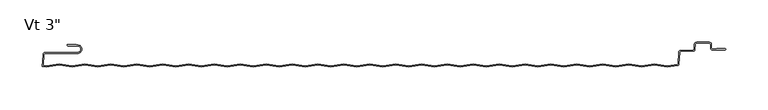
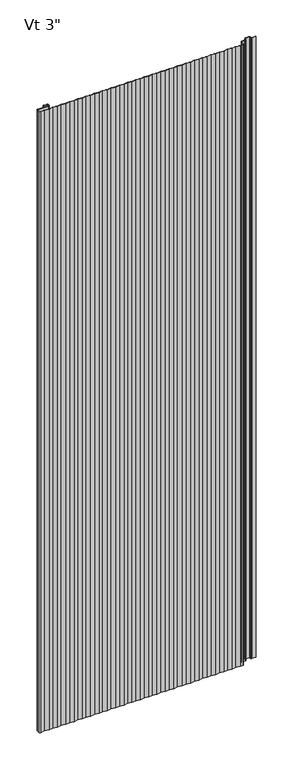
"""IFC4 building model written with IfcOpenShell, lengths in millimetres: plate geometry."""

from ifc_helpers import new_model, si_unit, point, frame, origin, place, context, project, spatial, polyline, circle_curve, ellipse_curve, trimmed, source, transform, mapped, element, save
from ifc_brep_helpers import plane_surface, cylinder_surface, revolved_surface, extruded_surface, advanced_brep


def plate_344c1e35(model_context):
    return source(origin(), model_context, "Body", "AdvancedBrep", [
        advanced_brep(
        [(-404.2252049, -50.8, 2400.0), (-404.2252049, -52.3875, 2400.0), (-392.9142674, -52.3875, 2400.0), (-392.9142674, -60.325, 2400.0), (-431.0975721, -60.325, 2400.0), (-433.4755586, -62.581625, 2400.0), (-434.21832, -76.7543553, 2400.0), (-429.8646686, -77.4509395, 2400.0), (-414.6246686, -75.0125395, 2400.0), (-399.3846686, -77.4509395, 2400.0), (-384.1446686, -75.0125395, 2400.0), (-368.9046686, -77.4509395, 2400.0), (-353.6646686, -75.0125395, 2400.0), (-338.4246686, -77.4509395, 2400.0), (-323.1846686, -75.0125395, 2400.0), (-307.9446686, -77.4509395, 2400.0), (-292.7046686, -75.0125395, 2400.0), (-277.4646686, -77.4509395, 2400.0), (-262.2246686, -75.0125395, 2400.0), (-246.9846686, -77.4509395, 2400.0), (-231.7446686, -75.0125395, 2400.0), (-216.5046686, -77.4509395, 2400.0), (-201.2646686, -75.0125395, 2400.0), (-186.0246686, -77.4509395, 2400.0), (-170.7846686, -75.0125395, 2400.0), (-155.5446686, -77.4509395, 2400.0), (-140.3046686, -75.0125395, 2400.0), (-125.0646686, -77.4509395, 2400.0), (-109.8246686, -75.0125395, 2400.0), (-94.5846686, -77.4509395, 2400.0), (-79.3446686, -75.0125395, 2400.0), (-64.1046686, -77.4509395, 2400.0), (-48.8646686, -75.0125395, 2400.0), (-33.6246686, -77.4509395, 2400.0), (-18.3846686, -75.0125395, 2400.0), (-3.1446686, -77.4509395, 2400.0), (12.0953314, -75.0125395, 2400.0), (27.3353314, -77.4509395, 2400.0), (42.5753314, -75.0125395, 2400.0), (57.8153314, -77.4509395, 2400.0), (73.0553314, -75.0125395, 2400.0), (88.2953314, -77.4509395, 2400.0), (103.5353314, -75.0125395, 2400.0), (118.7753314, -77.4509395, 2400.0), (134.0153314, -75.0125395, 2400.0), (149.2553314, -77.4509395, 2400.0), (164.4953314, -75.0125395, 2400.0), (179.7353314, -77.4509395, 2400.0), (194.9753314, -75.0125395, 2400.0), (210.2153314, -77.4509395, 2400.0), (225.4553314, -75.0125395, 2400.0), (240.6953314, -77.4509395, 2400.0), (255.9353314, -75.0125395, 2400.0), (271.1753314, -77.4509395, 2400.0), (286.4153314, -75.0125395, 2400.0), (301.4527639, -77.4185287, 2400.0), (313.8944828, -75.4278537, 2400.0), (315.2289973, -73.943375, 2400.0), (315.9470603, -60.2419167, 2400.0), (317.5323847, -58.7375, 2400.0), (331.6886911, -58.7375, 2400.0), (334.0666776, -56.480875, 2400.0), (334.3687539, -50.7169167, 2400.0), (335.9540783, -49.2125, 2400.0), (350.8294826, -49.2125, 2400.0), (352.4169826, -50.8, 2400.0), (352.4169826, -54.9671875, 2400.0), (354.7982326, -57.3484375, 2400.0), (369.2898532, -57.3484375, 2400.0), (369.2898532, -55.5546875, 2400.0), (359.5607326, -55.5546875, 2400.0), (359.5607326, -56.3484375, 2400.0), (354.7982326, -56.3484375, 2400.0), (353.4169826, -54.9671875, 2400.0), (353.4169826, -50.8, 2400.0), (350.8294826, -48.2125, 2400.0), (335.9540783, -48.2125, 2400.0), (333.3701244, -50.6645807, 2400.0), (333.0680481, -56.428539, 2400.0), (331.6886911, -57.7375, 2400.0), (317.5323847, -57.7375, 2400.0), (314.9484307, -60.1895807, 2400.0), (314.2303677, -73.891039, 2400.0), (313.7364923, -74.440413, 2400.0), (301.4527639, -76.4058096, 2400.0), (286.4153314, -73.9998204, 2400.0), (271.1753314, -76.4382204, 2400.0), (255.9353314, -73.9998204, 2400.0), (240.6953314, -76.4382204, 2400.0), (225.4553314, -73.9998204, 2400.0), (210.2153314, -76.4382204, 2400.0), (194.9753314, -73.9998204, 2400.0), (179.7353314, -76.4382204, 2400.0), (164.4953314, -73.9998204, 2400.0), (149.2553314, -76.4382204, 2400.0), (134.0153314, -73.9998204, 2400.0), (118.7753314, -76.4382204, 2400.0), (103.5353314, -73.9998204, 2400.0), (88.2953314, -76.4382204, 2400.0), (73.0553314, -73.9998204, 2400.0), (57.8153314, -76.4382204, 2400.0), (42.5753314, -73.9998204, 2400.0), (27.3353314, -76.4382204, 2400.0), (12.0953314, -73.9998204, 2400.0), (-3.1446686, -76.4382204, 2400.0), (-18.3846686, -73.9998204, 2400.0), (-33.6246686, -76.4382204, 2400.0), (-48.8646686, -73.9998204, 2400.0), (-64.1046686, -76.4382204, 2400.0), (-79.3446686, -73.9998204, 2400.0), (-94.5846686, -76.4382204, 2400.0), (-109.8246686, -73.9998204, 2400.0), (-125.0646686, -76.4382204, 2400.0), (-140.3046686, -73.9998204, 2400.0), (-155.5446686, -76.4382204, 2400.0), (-170.7846686, -73.9998204, 2400.0), (-186.0246686, -76.4382204, 2400.0), (-201.2646686, -73.9998204, 2400.0), (-216.5046686, -76.4382204, 2400.0), (-231.7446686, -73.9998204, 2400.0), (-246.9846686, -76.4382204, 2400.0), (-262.2246686, -73.9998204, 2400.0), (-277.4646686, -76.4382204, 2400.0), (-292.7046686, -73.9998204, 2400.0), (-307.9446686, -76.4382204, 2400.0), (-323.1846686, -73.9998204, 2400.0), (-338.4246686, -76.4382204, 2400.0), (-353.6646686, -73.9998204, 2400.0), (-368.9046686, -76.4382204, 2400.0), (-384.1446686, -73.9998204, 2400.0), (-399.3846686, -76.4382204, 2400.0), (-414.6246686, -73.9998204, 2400.0), (-429.8646686, -76.4382204, 2400.0), (-433.1726415, -75.9089447, 2400.0), (-432.4769291, -62.633961, 2400.0), (-431.0975721, -61.325, 2400.0), (-392.9142674, -61.325, 2400.0), (-392.9142674, -51.3875, 2400.0), (-394.5017674, -51.59375, 2400.0), (-394.5017674, -50.8, 2400.0), (-404.2252049, -50.8, 0.0), (-394.5017674, -50.8, 0.0), (-394.5017674, -51.59375, 0.0), (-392.9142674, -51.3875, 0.0), (-392.9142674, -61.325, 0.0), (-431.0975721, -61.325, 0.0), (-432.4769291, -62.633961, 0.0), (-433.1726415, -75.9089447, 0.0), (-429.8646686, -76.4382204, 0.0), (-414.6246686, -73.9998204, 0.0), (-399.3846686, -76.4382204, 0.0), (-384.1446686, -73.9998204, 0.0), (-368.9046686, -76.4382204, 0.0), (-353.6646686, -73.9998204, 0.0), (-338.4246686, -76.4382204, 0.0), (-323.1846686, -73.9998204, 0.0), (-307.9446686, -76.4382204, 0.0), (-292.7046686, -73.9998204, 0.0), (-277.4646686, -76.4382204, 0.0), (-262.2246686, -73.9998204, 0.0), (-246.9846686, -76.4382204, 0.0), (-231.7446686, -73.9998204, 0.0), (-216.5046686, -76.4382204, 0.0), (-201.2646686, -73.9998204, 0.0), (-186.0246686, -76.4382204, 0.0), (-170.7846686, -73.9998204, 0.0), (-155.5446686, -76.4382204, 0.0), (-140.3046686, -73.9998204, 0.0), (-125.0646686, -76.4382204, 0.0), (-109.8246686, -73.9998204, 0.0), (-94.5846686, -76.4382204, 0.0), (-79.3446686, -73.9998204, 0.0), (-64.1046686, -76.4382204, 0.0), (-48.8646686, -73.9998204, 0.0), (-33.6246686, -76.4382204, 0.0), (-18.3846686, -73.9998204, 0.0), (-3.1446686, -76.4382204, 0.0), (12.0953314, -73.9998204, 0.0), (27.3353314, -76.4382204, 0.0), (42.5753314, -73.9998204, 0.0), (57.8153314, -76.4382204, 0.0), (73.0553314, -73.9998204, 0.0), (88.2953314, -76.4382204, 0.0), (103.5353314, -73.9998204, 0.0), (118.7753314, -76.4382204, 0.0), (134.0153314, -73.9998204, 0.0), (149.2553314, -76.4382204, 0.0), (164.4953314, -73.9998204, 0.0), (179.7353314, -76.4382204, 0.0), (194.9753314, -73.9998204, 0.0), (210.2153314, -76.4382204, 0.0), (225.4553314, -73.9998204, 0.0), (240.6953314, -76.4382204, 0.0), (255.9353314, -73.9998204, 0.0), (271.1753314, -76.4382204, 0.0), (286.4153314, -73.9998204, 0.0), (301.4527639, -76.4058096, 0.0), (313.7364923, -74.440413, 0.0), (314.2303677, -73.891039, 0.0), (314.9484307, -60.1895807, 0.0), (317.5323847, -57.7375, 0.0), (331.6886911, -57.7375, 0.0), (333.0680481, -56.428539, 0.0), (333.3701244, -50.6645807, 0.0), (335.9540783, -48.2125, 0.0), (350.8294826, -48.2125, 0.0), (353.4169826, -50.8, 0.0), (353.4169826, -54.9671875, 0.0), (354.7982326, -56.3484375, 0.0), (359.5607326, -56.3484375, 0.0), (359.5607326, -55.5546875, 0.0), (369.2898532, -55.5546875, 0.0), (369.2898532, -57.3484375, 0.0), (354.7982326, -57.3484375, 0.0), (352.4169826, -54.9671875, 0.0), (352.4169826, -50.8, 0.0), (350.8294826, -49.2125, 0.0), (335.9540783, -49.2125, 0.0), (334.3687539, -50.7169167, 0.0), (334.0666776, -56.480875, 0.0), (331.6886911, -58.7375, 0.0), (317.5323847, -58.7375, 0.0), (315.9470603, -60.2419167, 0.0), (315.2289973, -73.943375, 0.0), (313.8944828, -75.4278537, 0.0), (301.4527639, -77.4185287, 0.0), (286.4153314, -75.0125395, 0.0), (271.1753314, -77.4509395, 0.0), (255.9353314, -75.0125395, 0.0), (240.6953314, -77.4509395, 0.0), (225.4553314, -75.0125395, 0.0), (210.2153314, -77.4509395, 0.0), (194.9753314, -75.0125395, 0.0), (179.7353314, -77.4509395, 0.0), (164.4953314, -75.0125395, 0.0), (149.2553314, -77.4509395, 0.0), (134.0153314, -75.0125395, 0.0), (118.7753314, -77.4509395, 0.0), (103.5353314, -75.0125395, 0.0), (88.2953314, -77.4509395, 0.0), (73.0553314, -75.0125395, 0.0), (57.8153314, -77.4509395, 0.0), (42.5753314, -75.0125395, 0.0), (27.3353314, -77.4509395, 0.0), (12.0953314, -75.0125395, 0.0), (-3.1446686, -77.4509395, 0.0), (-18.3846686, -75.0125395, 0.0), (-33.6246686, -77.4509395, 0.0), (-48.8646686, -75.0125395, 0.0), (-64.1046686, -77.4509395, 0.0), (-79.3446686, -75.0125395, 0.0), (-94.5846686, -77.4509395, 0.0), (-109.8246686, -75.0125395, 0.0), (-125.0646686, -77.4509395, 0.0), (-140.3046686, -75.0125395, 0.0), (-155.5446686, -77.4509395, 0.0), (-170.7846686, -75.0125395, 0.0), (-186.0246686, -77.4509395, 0.0), (-201.2646686, -75.0125395, 0.0), (-216.5046686, -77.4509395, 0.0), (-231.7446686, -75.0125395, 0.0), (-246.9846686, -77.4509395, 0.0), (-262.2246686, -75.0125395, 0.0), (-277.4646686, -77.4509395, 0.0), (-292.7046686, -75.0125395, 0.0), (-307.9446686, -77.4509395, 0.0), (-323.1846686, -75.0125395, 0.0), (-338.4246686, -77.4509395, 0.0), (-353.6646686, -75.0125395, 0.0), (-368.9046686, -77.4509395, 0.0), (-384.1446686, -75.0125395, 0.0), (-399.3846686, -77.4509395, 0.0), (-414.6246686, -75.0125395, 0.0), (-429.8646686, -77.4509395, 0.0), (-434.21832, -76.7543553, 0.0), (-433.4755586, -62.581625, 0.0), (-431.0975721, -60.325, 0.0), (-392.9142674, -60.325, 0.0), (-392.9142674, -52.3875, 0.0), (-404.2252049, -52.3875, 0.0)],
        [
            (0, 1, circle_curve(frame((-404.2252049, -51.59375, 2400.0), z_axis=(0.0, 0.0, 1.0), x_axis=(1.0, 0.0, 0.0)), 0.79375)),
            (1, 2),
            (2, 3, circle_curve(frame((-392.9142674, -56.35625, 2400.0), z_axis=(0.0, 0.0, -1.0), x_axis=(1.0, 0.0, 0.0)), 3.96875)),
            (3, 4),
            (4, 5, circle_curve(frame((-431.0975721, -62.70625, 2400.0), z_axis=(0.0, 0.0, 1.0), x_axis=(1.0, 0.0, 0.0)), 2.38125)),
            (5, 6),
            (6, 7),
            (7, 8),
            (8, 9),
            (9, 10),
            (10, 11),
            (11, 12),
            (12, 13),
            (13, 14),
            (14, 15),
            (15, 16),
            (16, 17),
            (17, 18),
            (18, 19),
            (19, 20),
            (20, 21),
            (21, 22),
            (22, 23),
            (23, 24),
            (24, 25),
            (25, 26),
            (26, 27),
            (27, 28),
            (28, 29),
            (29, 30),
            (30, 31),
            (31, 32),
            (32, 33),
            (33, 34),
            (34, 35),
            (35, 36),
            (36, 37),
            (37, 38),
            (38, 39),
            (39, 40),
            (40, 41),
            (41, 42),
            (42, 43),
            (43, 44),
            (44, 45),
            (45, 46),
            (46, 47),
            (47, 48),
            (48, 49),
            (49, 50),
            (50, 51),
            (51, 52),
            (52, 53),
            (53, 54),
            (54, 55),
            (55, 56),
            (56, 57, circle_curve(frame((313.6436729, -73.8602917, 2400.0), z_axis=(0.0, 0.0, 1.0), x_axis=(1.0, 0.0, 0.0)), 1.5875)),
            (57, 58),
            (58, 59, circle_curve(frame((317.5323847, -60.325, 2400.0), z_axis=(0.0, 0.0, -1.0), x_axis=(1.0, 0.0, 0.0)), 1.5875)),
            (59, 60),
            (60, 61, circle_curve(frame((331.6886911, -56.35625, 2400.0), z_axis=(0.0, 0.0, 1.0), x_axis=(1.0, 0.0, 0.0)), 2.38125)),
            (61, 62),
            (62, 63, circle_curve(frame((335.9540783, -50.8, 2400.0), z_axis=(0.0, 0.0, -1.0), x_axis=(1.0, 0.0, 0.0)), 1.5875)),
            (63, 64),
            (64, 65, circle_curve(frame((350.8294826, -50.8, 2400.0), z_axis=(0.0, 0.0, -1.0), x_axis=(1.0, 0.0, 0.0)), 1.5875)),
            (65, 66),
            (66, 67, circle_curve(frame((354.7982326, -54.9671875, 2400.0), z_axis=(0.0, 0.0, 1.0), x_axis=(1.0, 0.0, 0.0)), 2.38125)),
            (67, 68),
            (68, 69, ellipse_curve(frame((369.2898532, -56.4515625, 2400.0), z_axis=(0.0, 0.0, 1.0), x_axis=(0.0, 1.0, 0.0)), 0.896875, 0.7852275)),
            (69, 70),
            (70, 71),
            (71, 72),
            (72, 73, circle_curve(frame((354.7982326, -54.9671875, 2400.0), z_axis=(0.0, 0.0, -1.0), x_axis=(1.0, 0.0, 0.0)), 1.38125)),
            (73, 74),
            (74, 75, circle_curve(frame((350.8294826, -50.8, 2400.0), z_axis=(0.0, 0.0, 1.0), x_axis=(1.0, 0.0, 0.0)), 2.5875)),
            (75, 76),
            (76, 77, circle_curve(frame((335.9540783, -50.8, 2400.0), z_axis=(0.0, 0.0, 1.0), x_axis=(1.0, 0.0, 0.0)), 2.5875)),
            (77, 78),
            (78, 79, circle_curve(frame((331.6886911, -56.35625, 2400.0), z_axis=(0.0, 0.0, -1.0), x_axis=(1.0, 0.0, 0.0)), 1.38125)),
            (79, 80),
            (80, 81, circle_curve(frame((317.5323847, -60.325, 2400.0), z_axis=(0.0, 0.0, 1.0), x_axis=(1.0, 0.0, 0.0)), 2.5875)),
            (81, 82),
            (82, 83, circle_curve(frame((313.6436729, -73.8602917, 2400.0), z_axis=(0.0, 0.0, -1.0), x_axis=(1.0, 0.0, 0.0)), 0.5875)),
            (83, 84),
            (84, 85),
            (85, 86),
            (86, 87),
            (87, 88),
            (88, 89),
            (89, 90),
            (90, 91),
            (91, 92),
            (92, 93),
            (93, 94),
            (94, 95),
            (95, 96),
            (96, 97),
            (97, 98),
            (98, 99),
            (99, 100),
            (100, 101),
            (101, 102),
            (102, 103),
            (103, 104),
            (104, 105),
            (105, 106),
            (106, 107),
            (107, 108),
            (108, 109),
            (109, 110),
            (110, 111),
            (111, 112),
            (112, 113),
            (113, 114),
            (114, 115),
            (115, 116),
            (116, 117),
            (117, 118),
            (118, 119),
            (119, 120),
            (120, 121),
            (121, 122),
            (122, 123),
            (123, 124),
            (124, 125),
            (125, 126),
            (126, 127),
            (127, 128),
            (128, 129),
            (129, 130),
            (130, 131),
            (131, 132),
            (132, 133),
            (133, 134),
            (134, 135, circle_curve(frame((-431.0975721, -62.70625, 2400.0), z_axis=(0.0, 0.0, -1.0), x_axis=(1.0, 0.0, 0.0)), 1.38125)),
            (135, 136),
            (136, 137, circle_curve(frame((-392.9142674, -56.35625, 2400.0), z_axis=(0.0, 0.0, 1.0), x_axis=(1.0, 0.0, 0.0)), 4.96875)),
            (137, 138),
            (138, 139),
            (139, 0),
            (140, 141),
            (141, 142),
            (142, 143),
            (143, 144, circle_curve(frame((-392.9142674, -56.35625, 0.0), z_axis=(0.0, 0.0, -1.0), x_axis=(1.0, 0.0, 0.0)), 4.96875)),
            (144, 145),
            (145, 146, circle_curve(frame((-431.0975721, -62.70625, 0.0), z_axis=(0.0, 0.0, 1.0), x_axis=(1.0, 0.0, 0.0)), 1.38125)),
            (146, 147),
            (147, 148),
            (148, 149),
            (149, 150),
            (150, 151),
            (151, 152),
            (152, 153),
            (153, 154),
            (154, 155),
            (155, 156),
            (156, 157),
            (157, 158),
            (158, 159),
            (159, 160),
            (160, 161),
            (161, 162),
            (162, 163),
            (163, 164),
            (164, 165),
            (165, 166),
            (166, 167),
            (167, 168),
            (168, 169),
            (169, 170),
            (170, 171),
            (171, 172),
            (172, 173),
            (173, 174),
            (174, 175),
            (175, 176),
            (176, 177),
            (177, 178),
            (178, 179),
            (179, 180),
            (180, 181),
            (181, 182),
            (182, 183),
            (183, 184),
            (184, 185),
            (185, 186),
            (186, 187),
            (187, 188),
            (188, 189),
            (189, 190),
            (190, 191),
            (191, 192),
            (192, 193),
            (193, 194),
            (194, 195),
            (195, 196),
            (196, 197),
            (197, 198, circle_curve(frame((313.6436729, -73.8602917, 0.0), z_axis=(0.0, 0.0, 1.0), x_axis=(1.0, 0.0, 0.0)), 0.5875)),
            (198, 199),
            (199, 200, circle_curve(frame((317.5323847, -60.325, 0.0), z_axis=(0.0, 0.0, -1.0), x_axis=(1.0, 0.0, 0.0)), 2.5875)),
            (200, 201),
            (201, 202, circle_curve(frame((331.6886911, -56.35625, 0.0), z_axis=(0.0, 0.0, 1.0), x_axis=(1.0, 0.0, 0.0)), 1.38125)),
            (202, 203),
            (203, 204, circle_curve(frame((335.9540783, -50.8, 0.0), z_axis=(0.0, 0.0, -1.0), x_axis=(1.0, 0.0, 0.0)), 2.5875)),
            (204, 205),
            (205, 206, circle_curve(frame((350.8294826, -50.8, 0.0), z_axis=(0.0, 0.0, -1.0), x_axis=(1.0, 0.0, 0.0)), 2.5875)),
            (206, 207),
            (207, 208, circle_curve(frame((354.7982326, -54.9671875, 0.0), z_axis=(0.0, 0.0, 1.0), x_axis=(1.0, 0.0, 0.0)), 1.38125)),
            (208, 209),
            (209, 210),
            (210, 211),
            (211, 212, ellipse_curve(frame((369.2898532, -56.4515625, 0.0), z_axis=(0.0, 0.0, -1.0), x_axis=(0.0, 1.0, 0.0)), 0.896875, 0.7852275)),
            (212, 213),
            (213, 214, circle_curve(frame((354.7982326, -54.9671875, 0.0), z_axis=(0.0, 0.0, -1.0), x_axis=(1.0, 0.0, 0.0)), 2.38125)),
            (214, 215),
            (215, 216, circle_curve(frame((350.8294826, -50.8, 0.0), z_axis=(0.0, 0.0, 1.0), x_axis=(1.0, 0.0, 0.0)), 1.5875)),
            (216, 217),
            (217, 218, circle_curve(frame((335.9540783, -50.8, 0.0), z_axis=(0.0, 0.0, 1.0), x_axis=(1.0, 0.0, 0.0)), 1.5875)),
            (218, 219),
            (219, 220, circle_curve(frame((331.6886911, -56.35625, 0.0), z_axis=(0.0, 0.0, -1.0), x_axis=(1.0, 0.0, 0.0)), 2.38125)),
            (220, 221),
            (221, 222, circle_curve(frame((317.5323847, -60.325, 0.0), z_axis=(0.0, 0.0, 1.0), x_axis=(1.0, 0.0, 0.0)), 1.5875)),
            (222, 223),
            (223, 224, circle_curve(frame((313.6436729, -73.8602917, 0.0), z_axis=(0.0, 0.0, -1.0), x_axis=(1.0, 0.0, 0.0)), 1.5875)),
            (224, 225),
            (225, 226),
            (226, 227),
            (227, 228),
            (228, 229),
            (229, 230),
            (230, 231),
            (231, 232),
            (232, 233),
            (233, 234),
            (234, 235),
            (235, 236),
            (236, 237),
            (237, 238),
            (238, 239),
            (239, 240),
            (240, 241),
            (241, 242),
            (242, 243),
            (243, 244),
            (244, 245),
            (245, 246),
            (246, 247),
            (247, 248),
            (248, 249),
            (249, 250),
            (250, 251),
            (251, 252),
            (252, 253),
            (253, 254),
            (254, 255),
            (255, 256),
            (256, 257),
            (257, 258),
            (258, 259),
            (259, 260),
            (260, 261),
            (261, 262),
            (262, 263),
            (263, 264),
            (264, 265),
            (265, 266),
            (266, 267),
            (267, 268),
            (268, 269),
            (269, 270),
            (270, 271),
            (271, 272),
            (272, 273),
            (273, 274),
            (274, 275),
            (275, 276, circle_curve(frame((-431.0975721, -62.70625, 0.0), z_axis=(0.0, 0.0, -1.0), x_axis=(1.0, 0.0, 0.0)), 2.38125)),
            (276, 277),
            (277, 278, circle_curve(frame((-392.9142674, -56.35625, 0.0), z_axis=(0.0, 0.0, 1.0), x_axis=(1.0, 0.0, 0.0)), 3.96875)),
            (278, 279),
            (279, 140, circle_curve(frame((-404.2252049, -51.59375, 0.0), z_axis=(0.0, 0.0, -1.0), x_axis=(1.0, 0.0, 0.0)), 0.79375)),
            (139, 141),
            (140, 0),
            (279, 1),
            (278, 2),
            (277, 3),
            (276, 4),
            (275, 5),
            (274, 6),
            (58, 222),
            (221, 59),
            (220, 60),
            (219, 61),
            (218, 62),
            (217, 63),
            (134, 146),
            (145, 135),
            (80, 200),
            (199, 81),
            (79, 201),
            (78, 202),
            (77, 203),
            (76, 204),
            (71, 209),
            (208, 72),
            (207, 73),
            (206, 74),
            (216, 64),
            (215, 65),
            (214, 66),
            (213, 67),
            (212, 68),
            (75, 205),
            (144, 136),
            (143, 137),
            (138, 142),
            (70, 210),
            (69, 211),
            (85, 195),
            (194, 86),
            (193, 87),
            (192, 88),
            (191, 89),
            (190, 90),
            (189, 91),
            (188, 92),
            (187, 93),
            (186, 94),
            (185, 95),
            (184, 96),
            (183, 97),
            (182, 98),
            (181, 99),
            (129, 151),
            (150, 130),
            (149, 131),
            (148, 132),
            (147, 133),
            (273, 7),
            (272, 8),
            (271, 9),
            (270, 10),
            (24, 256),
            (255, 25),
            (254, 26),
            (253, 27),
            (252, 28),
            (40, 240),
            (239, 41),
            (238, 42),
            (39, 241),
            (38, 242),
            (37, 243),
            (36, 244),
            (35, 245),
            (34, 246),
            (33, 247),
            (32, 248),
            (31, 249),
            (30, 250),
            (29, 251),
            (114, 166),
            (165, 115),
            (113, 167),
            (112, 168),
            (111, 169),
            (110, 170),
            (109, 171),
            (108, 172),
            (107, 173),
            (106, 174),
            (105, 175),
            (104, 176),
            (103, 177),
            (102, 178),
            (101, 179),
            (100, 180),
            (121, 159),
            (158, 122),
            (57, 223),
            (198, 82),
            (54, 226),
            (225, 55),
            (84, 196),
            (237, 43),
            (236, 44),
            (235, 45),
            (234, 46),
            (233, 47),
            (232, 48),
            (231, 49),
            (230, 50),
            (229, 51),
            (228, 52),
            (157, 123),
            (227, 53),
            (224, 56),
            (197, 83),
            (164, 116),
            (163, 117),
            (162, 118),
            (161, 119),
            (160, 120),
            (19, 261),
            (260, 20),
            (18, 262),
            (259, 21),
            (22, 258),
            (257, 23),
            (156, 124),
            (125, 155),
            (154, 126),
            (153, 127),
            (12, 268),
            (267, 13),
            (266, 14),
            (265, 15),
            (264, 16),
            (263, 17),
            (152, 128),
            (269, 11),
        ],
        [
            plane_surface(frame((0.00625, -76.2, 2400.0), z_axis=(0.0, 0.0, 1.0), x_axis=(0.0, -1.0, 0.0))),
            plane_surface(frame((0.00625, -76.2, 0.0), z_axis=(0.0, 0.0, -1.0), x_axis=(0.0, -1.0, 0.0))),
            plane_surface(frame((-404.2252049, -50.8, 2400.0), z_axis=(0.0, 1.0, 0.0), x_axis=(0.0, 0.0, -1.0))),
            cylinder_surface(frame((-404.2252049, -51.59375, 2400.0), z_axis=(0.0, 0.0, 1.0), x_axis=(1.0, 0.0, 0.0)), 0.79375),
            plane_surface(frame((-392.9142674, -52.3875, 2400.0), z_axis=(0.0, -1.0, 0.0), x_axis=(0.0, 0.0, -1.0))),
            revolved_surface(polyline([(-388.9455174, -56.35625, 0.0), (-388.9455174, -56.35625, 2400.0)]), (-392.9142674, -56.35625, 2400.0), (0.0, 0.0, -1.0)),
            plane_surface(frame((-431.0975721, -60.325, 2400.0), z_axis=(0.0, 1.0, 0.0), x_axis=(0.0, 0.0, -1.0))),
            cylinder_surface(frame((-431.0975721, -62.70625, 2400.0), z_axis=(0.0, 0.0, 1.0), x_axis=(1.0, 0.0, 0.0)), 2.38125),
            plane_surface(frame((-434.21832, -76.7543553, 2400.0), z_axis=(-0.9986295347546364, 0.05233595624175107, 0.0), x_axis=(0.0, 0.0, -1.0))),
            revolved_surface(polyline([(319.1198847, -60.325, 0.0), (319.1198847, -60.325, 2400.0)]), (317.5323847, -60.325, 2400.0), (0.0, 0.0, -1.0)),
            plane_surface(frame((331.6886911, -58.7375, 2400.0), z_axis=(0.0, -1.0, 0.0), x_axis=(0.0, 0.0, -1.0))),
            cylinder_surface(frame((331.6886911, -56.35625, 2400.0), z_axis=(0.0, 0.0, 1.0), x_axis=(1.0, 0.0, 0.0)), 2.38125),
            plane_surface(frame((334.3687539, -50.7169167, 2400.0), z_axis=(0.9986295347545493, -0.052335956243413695, 0.0), x_axis=(0.0, 0.0, -1.0))),
            revolved_surface(polyline([(337.54157829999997, -50.8, 0.0), (337.54157829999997, -50.8, 2400.0)]), (335.9540783, -50.8, 2400.0), (0.0, 0.0, -1.0)),
            revolved_surface(polyline([(-429.71632209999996, -62.70625, 0.0), (-429.71632209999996, -62.70625, 2400.0)]), (-431.0975721, -62.70625, 2400.0), (0.0, 0.0, -1.0)),
            cylinder_surface(frame((317.5323847, -60.325, 2400.0), z_axis=(0.0, 0.0, 1.0), x_axis=(1.0, 0.0, 0.0)), 2.5875),
            plane_surface(frame((317.5323847, -57.7375, 2400.0), z_axis=(0.0, 1.0, 0.0), x_axis=(0.0, 0.0, -1.0))),
            revolved_surface(polyline([(333.06994110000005, -56.35625, 0.0), (333.06994110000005, -56.35625, 2400.0)]), (331.6886911, -56.35625, 2400.0), (0.0, 0.0, -1.0)),
            plane_surface(frame((333.0680481, -56.428539, 2400.0), z_axis=(-0.998629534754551, 0.05233595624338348, 0.0), x_axis=(0.0, 0.0, -1.0))),
            cylinder_surface(frame((335.9540783, -50.8, 2400.0), z_axis=(0.0, 0.0, 1.0), x_axis=(1.0, 0.0, 0.0)), 2.5875),
            plane_surface(frame((354.7982326, -56.3484375, 2400.0), z_axis=(0.0, 1.0, 0.0), x_axis=(0.0, 0.0, -1.0))),
            revolved_surface(polyline([(356.17948260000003, -54.9671875, 0.0), (356.17948260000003, -54.9671875, 2400.0)]), (354.7982326, -54.9671875, 2400.0), (0.0, 0.0, -1.0)),
            plane_surface(frame((353.4169826, -50.8, 2400.0), z_axis=(1.0, 0.0, 0.0), x_axis=(0.0, 0.0, -1.0))),
            plane_surface(frame((350.8294826, -49.2125, 2400.0), z_axis=(0.0, -1.0, 0.0), x_axis=(0.0, 0.0, -1.0))),
            revolved_surface(polyline([(352.4169826, -50.8, 0.0), (352.4169826, -50.8, 2400.0)]), (350.8294826, -50.8, 2400.0), (0.0, 0.0, -1.0)),
            plane_surface(frame((352.4169826, -54.9671875, 2400.0), z_axis=(-1.0, 0.0, 0.0), x_axis=(0.0, 0.0, -1.0))),
            cylinder_surface(frame((354.7982326, -54.9671875, 2400.0), z_axis=(0.0, 0.0, 1.0), x_axis=(1.0, 0.0, 0.0)), 2.38125),
            plane_surface(frame((369.2898532, -57.3484375, 2400.0), z_axis=(0.0, -1.0, 0.0), x_axis=(0.0, 0.0, -1.0))),
            plane_surface(frame((335.9540783, -48.2125, 2400.0), z_axis=(0.0, 1.0, 0.0), x_axis=(0.0, 0.0, -1.0))),
            cylinder_surface(frame((350.8294826, -50.8, 2400.0), z_axis=(0.0, 0.0, 1.0), x_axis=(1.0, 0.0, 0.0)), 2.5875),
            plane_surface(frame((-392.9142674, -61.325, 2400.0), z_axis=(0.0, -1.0, 0.0), x_axis=(0.0, 0.0, -1.0))),
            cylinder_surface(frame((-392.9142674, -56.35625, 2400.0), z_axis=(0.0, 0.0, 1.0), x_axis=(1.0, 0.0, 0.0)), 4.96875),
            plane_surface(frame((-394.5017674, -50.8, 2400.0), z_axis=(1.0, 0.0, 0.0), x_axis=(0.0, 0.0, -1.0))),
            plane_surface(frame((-394.5017674, -51.59375, 2400.0), z_axis=(-0.12883844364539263, 0.9916655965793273, 0.0), x_axis=(0.0, 0.0, -1.0))),
            plane_surface(frame((359.5607326, -56.3484375, 2400.0), z_axis=(-1.0, 0.0, 0.0), x_axis=(0.0, 0.0, -1.0))),
            plane_surface(frame((359.5607326, -55.5546875, 2400.0), z_axis=(0.0, 1.0, 0.0), x_axis=(0.0, 0.0, -1.0))),
            extruded_surface(trimmed(ellipse_curve(frame((369.2898532, -56.4515625, 2400.0), z_axis=(0.0, 0.0, -1.0), x_axis=(0.0, 1.0, 0.0)), 0.896875, 0.7852275), [point((369.2898532, -55.5546875, 2400.0))], [point((369.2898532, -57.3484375, 2400.0))], True, "CARTESIAN"), (0.0, 0.0, -2400.0), 2400.0),
            plane_surface(frame((271.1753314, -76.4382204, 2400.0), z_axis=(-0.15799050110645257, 0.9874406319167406, 0.0), x_axis=(0.0, 0.0, -1.0))),
            plane_surface(frame((255.9353314, -73.9998204, 2400.0), z_axis=(0.157990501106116, 0.9874406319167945, 0.0), x_axis=(0.0, 0.0, -1.0))),
            plane_surface(frame((240.6953314, -76.4382204, 2400.0), z_axis=(-0.15799050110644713, 0.9874406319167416, 0.0), x_axis=(0.0, 0.0, -1.0))),
            plane_surface(frame((225.4553314, -73.9998204, 2400.0), z_axis=(0.157990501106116, 0.9874406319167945, 0.0), x_axis=(0.0, 0.0, -1.0))),
            plane_surface(frame((210.2153314, -76.4382204, 2400.0), z_axis=(-0.15799050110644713, 0.9874406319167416, 0.0), x_axis=(0.0, 0.0, -1.0))),
            plane_surface(frame((194.9753314, -73.9998204, 2400.0), z_axis=(0.157990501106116, 0.9874406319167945, 0.0), x_axis=(0.0, 0.0, -1.0))),
            plane_surface(frame((179.7353314, -76.4382204, 2400.0), z_axis=(-0.15799050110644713, 0.9874406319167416, 0.0), x_axis=(0.0, 0.0, -1.0))),
            plane_surface(frame((164.4953314, -73.9998204, 2400.0), z_axis=(0.15799050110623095, 0.9874406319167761, 0.0), x_axis=(0.0, 0.0, -1.0))),
            plane_surface(frame((149.2553314, -76.4382204, 2400.0), z_axis=(-0.15799050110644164, 0.9874406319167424, 0.0), x_axis=(0.0, 0.0, -1.0))),
            plane_surface(frame((134.0153314, -73.9998204, 2400.0), z_axis=(0.15799050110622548, 0.987440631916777, 0.0), x_axis=(0.0, 0.0, -1.0))),
            plane_surface(frame((118.7753314, -76.4382204, 2400.0), z_axis=(-0.15799050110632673, 0.9874406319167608, 0.0), x_axis=(0.0, 0.0, -1.0))),
            plane_surface(frame((103.5353314, -73.9998204, 2400.0), z_axis=(0.15799050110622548, 0.987440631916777, 0.0), x_axis=(0.0, 0.0, -1.0))),
            plane_surface(frame((88.2953314, -76.4382204, 2400.0), z_axis=(-0.15799050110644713, 0.9874406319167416, 0.0), x_axis=(0.0, 0.0, -1.0))),
            plane_surface(frame((73.0553314, -73.9998204, 2400.0), z_axis=(0.15799050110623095, 0.9874406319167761, 0.0), x_axis=(0.0, 0.0, -1.0))),
            plane_surface(frame((-399.3846686, -76.4382204, 2400.0), z_axis=(-0.15799050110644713, 0.9874406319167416, 0.0), x_axis=(0.0, 0.0, -1.0))),
            plane_surface(frame((-414.6246686, -73.9998204, 2400.0), z_axis=(0.157990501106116, 0.9874406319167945, 0.0), x_axis=(0.0, 0.0, -1.0))),
            plane_surface(frame((-429.8646686, -76.4382204, 2400.0), z_axis=(-0.15799050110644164, 0.9874406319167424, 0.0), x_axis=(0.0, 0.0, -1.0))),
            plane_surface(frame((-433.1726415, -75.9089447, 2400.0), z_axis=(0.1579905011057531, 0.9874406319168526, 0.0), x_axis=(0.0, 0.0, -1.0))),
            plane_surface(frame((-429.8646686, -77.4509395, 2400.0), z_axis=(-0.15799050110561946, -0.9874406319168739, 0.0), x_axis=(0.0, 0.0, -1.0))),
            plane_surface(frame((-414.6246686, -75.0125395, 2400.0), z_axis=(0.15799050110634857, -0.9874406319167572, 0.0), x_axis=(0.0, 0.0, -1.0))),
            plane_surface(frame((-399.3846686, -77.4509395, 2400.0), z_axis=(-0.15799050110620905, -0.9874406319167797, 0.0), x_axis=(0.0, 0.0, -1.0))),
            plane_surface(frame((-384.1446686, -75.0125395, 2400.0), z_axis=(0.15799050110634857, -0.9874406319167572, 0.0), x_axis=(0.0, 0.0, -1.0))),
            plane_surface(frame((-155.5446686, -77.4509395, 2400.0), z_axis=(-0.15799050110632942, -0.9874406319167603, 0.0), x_axis=(0.0, 0.0, -1.0))),
            plane_surface(frame((-140.3046686, -75.0125395, 2400.0), z_axis=(0.15799050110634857, -0.9874406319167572, 0.0), x_axis=(0.0, 0.0, -1.0))),
            plane_surface(frame((-125.0646686, -77.4509395, 2400.0), z_axis=(-0.15799050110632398, -0.9874406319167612, 0.0), x_axis=(0.0, 0.0, -1.0))),
            plane_surface(frame((-109.8246686, -75.0125395, 2400.0), z_axis=(0.15799050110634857, -0.9874406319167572, 0.0), x_axis=(0.0, 0.0, -1.0))),
            plane_surface(frame((88.2953314, -77.4509395, 2400.0), z_axis=(-0.15799050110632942, -0.9874406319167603, 0.0), x_axis=(0.0, 0.0, -1.0))),
            plane_surface(frame((103.5353314, -75.0125395, 2400.0), z_axis=(0.15799050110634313, -0.9874406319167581, 0.0), x_axis=(0.0, 0.0, -1.0))),
            plane_surface(frame((73.0553314, -75.0125395, 2400.0), z_axis=(0.15799050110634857, -0.9874406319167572, 0.0), x_axis=(0.0, 0.0, -1.0))),
            plane_surface(frame((57.8153314, -77.4509395, 2400.0), z_axis=(-0.15799050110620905, -0.9874406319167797, 0.0), x_axis=(0.0, 0.0, -1.0))),
            plane_surface(frame((42.5753314, -75.0125395, 2400.0), z_axis=(0.15799050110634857, -0.9874406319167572, 0.0), x_axis=(0.0, 0.0, -1.0))),
            plane_surface(frame((27.3353314, -77.4509395, 2400.0), z_axis=(-0.15799050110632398, -0.9874406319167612, 0.0), x_axis=(0.0, 0.0, -1.0))),
            plane_surface(frame((12.0953314, -75.0125395, 2400.0), z_axis=(0.15799050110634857, -0.9874406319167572, 0.0), x_axis=(0.0, 0.0, -1.0))),
            plane_surface(frame((-3.1446686, -77.4509395, 2400.0), z_axis=(-0.15799050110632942, -0.9874406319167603, 0.0), x_axis=(0.0, 0.0, -1.0))),
            plane_surface(frame((-18.3846686, -75.0125395, 2400.0), z_axis=(0.1579905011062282, -0.9874406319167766, 0.0), x_axis=(0.0, 0.0, -1.0))),
            plane_surface(frame((-33.6246686, -77.4509395, 2400.0), z_axis=(-0.15799050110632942, -0.9874406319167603, 0.0), x_axis=(0.0, 0.0, -1.0))),
            plane_surface(frame((-48.8646686, -75.0125395, 2400.0), z_axis=(0.15799050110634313, -0.9874406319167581, 0.0), x_axis=(0.0, 0.0, -1.0))),
            plane_surface(frame((-64.1046686, -77.4509395, 2400.0), z_axis=(-0.15799050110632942, -0.9874406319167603, 0.0), x_axis=(0.0, 0.0, -1.0))),
            plane_surface(frame((-79.3446686, -75.0125395, 2400.0), z_axis=(0.15799050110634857, -0.9874406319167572, 0.0), x_axis=(0.0, 0.0, -1.0))),
            plane_surface(frame((-94.5846686, -77.4509395, 2400.0), z_axis=(-0.15799050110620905, -0.9874406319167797, 0.0), x_axis=(0.0, 0.0, -1.0))),
            plane_surface(frame((-170.7846686, -73.9998204, 2400.0), z_axis=(0.15799050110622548, 0.987440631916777, 0.0), x_axis=(0.0, 0.0, -1.0))),
            plane_surface(frame((-155.5446686, -76.4382204, 2400.0), z_axis=(-0.15799050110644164, 0.9874406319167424, 0.0), x_axis=(0.0, 0.0, -1.0))),
            plane_surface(frame((-140.3046686, -73.9998204, 2400.0), z_axis=(0.15799050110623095, 0.9874406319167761, 0.0), x_axis=(0.0, 0.0, -1.0))),
            plane_surface(frame((-125.0646686, -76.4382204, 2400.0), z_axis=(-0.15799050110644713, 0.9874406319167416, 0.0), x_axis=(0.0, 0.0, -1.0))),
            plane_surface(frame((-109.8246686, -73.9998204, 2400.0), z_axis=(0.157990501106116, 0.9874406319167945, 0.0), x_axis=(0.0, 0.0, -1.0))),
            plane_surface(frame((-94.5846686, -76.4382204, 2400.0), z_axis=(-0.15799050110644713, 0.9874406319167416, 0.0), x_axis=(0.0, 0.0, -1.0))),
            plane_surface(frame((-79.3446686, -73.9998204, 2400.0), z_axis=(0.15799050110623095, 0.9874406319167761, 0.0), x_axis=(0.0, 0.0, -1.0))),
            plane_surface(frame((-64.1046686, -76.4382204, 2400.0), z_axis=(-0.15799050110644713, 0.9874406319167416, 0.0), x_axis=(0.0, 0.0, -1.0))),
            plane_surface(frame((-48.8646686, -73.9998204, 2400.0), z_axis=(0.15799050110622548, 0.987440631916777, 0.0), x_axis=(0.0, 0.0, -1.0))),
            plane_surface(frame((-33.6246686, -76.4382204, 2400.0), z_axis=(-0.15799050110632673, 0.9874406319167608, 0.0), x_axis=(0.0, 0.0, -1.0))),
            plane_surface(frame((-18.3846686, -73.9998204, 2400.0), z_axis=(0.15799050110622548, 0.987440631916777, 0.0), x_axis=(0.0, 0.0, -1.0))),
            plane_surface(frame((-3.1446686, -76.4382204, 2400.0), z_axis=(-0.15799050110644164, 0.9874406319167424, 0.0), x_axis=(0.0, 0.0, -1.0))),
            plane_surface(frame((12.0953314, -73.9998204, 2400.0), z_axis=(0.15799050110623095, 0.9874406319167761, 0.0), x_axis=(0.0, 0.0, -1.0))),
            plane_surface(frame((27.3353314, -76.4382204, 2400.0), z_axis=(-0.15799050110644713, 0.9874406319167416, 0.0), x_axis=(0.0, 0.0, -1.0))),
            plane_surface(frame((42.5753314, -73.9998204, 2400.0), z_axis=(0.157990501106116, 0.9874406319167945, 0.0), x_axis=(0.0, 0.0, -1.0))),
            plane_surface(frame((57.8153314, -76.4382204, 2400.0), z_axis=(-0.15799050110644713, 0.9874406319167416, 0.0), x_axis=(0.0, 0.0, -1.0))),
            plane_surface(frame((-432.4769291, -62.633961, 2400.0), z_axis=(0.9986295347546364, -0.05233595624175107, 0.0), x_axis=(0.0, 0.0, -1.0))),
            plane_surface(frame((-277.4646686, -76.4382204, 2400.0), z_axis=(-0.15799050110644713, 0.9874406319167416, 0.0), x_axis=(0.0, 0.0, -1.0))),
            plane_surface(frame((315.9470603, -60.2419167, 2400.0), z_axis=(0.9986295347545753, -0.052335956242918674, 0.0), x_axis=(0.0, 0.0, -1.0))),
            plane_surface(frame((314.2303677, -73.891039, 2400.0), z_axis=(-0.9986295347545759, 0.05233595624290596, 0.0), x_axis=(0.0, 0.0, -1.0))),
            plane_surface(frame((301.4527639, -77.4185287, 2400.0), z_axis=(-0.15799050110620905, -0.9874406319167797, 0.0), x_axis=(0.0, 0.0, -1.0))),
            plane_surface(frame((286.4153314, -73.9998204, 2400.0), z_axis=(0.15799050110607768, 0.9874406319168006, 0.0), x_axis=(0.0, 0.0, -1.0))),
            plane_surface(frame((118.7753314, -77.4509395, 2400.0), z_axis=(-0.15799050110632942, -0.9874406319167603, 0.0), x_axis=(0.0, 0.0, -1.0))),
            plane_surface(frame((134.0153314, -75.0125395, 2400.0), z_axis=(0.1579905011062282, -0.9874406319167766, 0.0), x_axis=(0.0, 0.0, -1.0))),
            plane_surface(frame((149.2553314, -77.4509395, 2400.0), z_axis=(-0.15799050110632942, -0.9874406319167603, 0.0), x_axis=(0.0, 0.0, -1.0))),
            plane_surface(frame((164.4953314, -75.0125395, 2400.0), z_axis=(0.15799050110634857, -0.9874406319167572, 0.0), x_axis=(0.0, 0.0, -1.0))),
            plane_surface(frame((179.7353314, -77.4509395, 2400.0), z_axis=(-0.15799050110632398, -0.9874406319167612, 0.0), x_axis=(0.0, 0.0, -1.0))),
            plane_surface(frame((194.9753314, -75.0125395, 2400.0), z_axis=(0.15799050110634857, -0.9874406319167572, 0.0), x_axis=(0.0, 0.0, -1.0))),
            plane_surface(frame((210.2153314, -77.4509395, 2400.0), z_axis=(-0.15799050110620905, -0.9874406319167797, 0.0), x_axis=(0.0, 0.0, -1.0))),
            plane_surface(frame((225.4553314, -75.0125395, 2400.0), z_axis=(0.15799050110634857, -0.9874406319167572, 0.0), x_axis=(0.0, 0.0, -1.0))),
            plane_surface(frame((240.6953314, -77.4509395, 2400.0), z_axis=(-0.15799050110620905, -0.9874406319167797, 0.0), x_axis=(0.0, 0.0, -1.0))),
            plane_surface(frame((255.9353314, -75.0125395, 2400.0), z_axis=(0.15799050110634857, -0.9874406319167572, 0.0), x_axis=(0.0, 0.0, -1.0))),
            plane_surface(frame((-292.7046686, -73.9998204, 2400.0), z_axis=(0.157990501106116, 0.9874406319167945, 0.0), x_axis=(0.0, 0.0, -1.0))),
            plane_surface(frame((271.1753314, -77.4509395, 2400.0), z_axis=(-0.15799050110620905, -0.9874406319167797, 0.0), x_axis=(0.0, 0.0, -1.0))),
            plane_surface(frame((286.4153314, -75.0125395, 2400.0), z_axis=(0.15799050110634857, -0.9874406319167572, 0.0), x_axis=(0.0, 0.0, -1.0))),
            plane_surface(frame((313.8944828, -75.4278537, 2400.0), z_axis=(0.15799050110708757, -0.987440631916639, 0.0), x_axis=(0.0, 0.0, -1.0))),
            cylinder_surface(frame((313.6436729, -73.8602917, 2400.0), z_axis=(0.0, 0.0, 1.0), x_axis=(1.0, 0.0, 0.0)), 1.5875),
            revolved_surface(polyline([(314.2311729, -73.8602917, 0.0), (314.2311729, -73.8602917, 2400.0)]), (313.6436729, -73.8602917, 2400.0), (0.0, 0.0, -1.0)),
            plane_surface(frame((301.4527639, -76.4058096, 2400.0), z_axis=(-0.15799050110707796, 0.9874406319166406, 0.0), x_axis=(0.0, 0.0, -1.0))),
            plane_surface(frame((-186.0246686, -76.4382204, 2400.0), z_axis=(-0.15799050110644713, 0.9874406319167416, 0.0), x_axis=(0.0, 0.0, -1.0))),
            plane_surface(frame((-201.2646686, -73.9998204, 2400.0), z_axis=(0.157990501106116, 0.9874406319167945, 0.0), x_axis=(0.0, 0.0, -1.0))),
            plane_surface(frame((-216.5046686, -76.4382204, 2400.0), z_axis=(-0.15799050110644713, 0.9874406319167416, 0.0), x_axis=(0.0, 0.0, -1.0))),
            plane_surface(frame((-231.7446686, -73.9998204, 2400.0), z_axis=(0.15799050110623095, 0.9874406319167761, 0.0), x_axis=(0.0, 0.0, -1.0))),
            plane_surface(frame((-246.9846686, -76.4382204, 2400.0), z_axis=(-0.15799050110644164, 0.9874406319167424, 0.0), x_axis=(0.0, 0.0, -1.0))),
            plane_surface(frame((-262.2246686, -73.9998204, 2400.0), z_axis=(0.15799050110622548, 0.987440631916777, 0.0), x_axis=(0.0, 0.0, -1.0))),
            plane_surface(frame((-231.7446686, -75.0125395, 2400.0), z_axis=(0.15799050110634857, -0.9874406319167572, 0.0), x_axis=(0.0, 0.0, -1.0))),
            plane_surface(frame((-246.9846686, -77.4509395, 2400.0), z_axis=(-0.15799050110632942, -0.9874406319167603, 0.0), x_axis=(0.0, 0.0, -1.0))),
            plane_surface(frame((-216.5046686, -77.4509395, 2400.0), z_axis=(-0.15799050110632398, -0.9874406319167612, 0.0), x_axis=(0.0, 0.0, -1.0))),
            plane_surface(frame((-186.0246686, -77.4509395, 2400.0), z_axis=(-0.15799050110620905, -0.9874406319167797, 0.0), x_axis=(0.0, 0.0, -1.0))),
            plane_surface(frame((-170.7846686, -75.0125395, 2400.0), z_axis=(0.15799050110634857, -0.9874406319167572, 0.0), x_axis=(0.0, 0.0, -1.0))),
            plane_surface(frame((-201.2646686, -75.0125395, 2400.0), z_axis=(0.15799050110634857, -0.9874406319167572, 0.0), x_axis=(0.0, 0.0, -1.0))),
            plane_surface(frame((-307.9446686, -76.4382204, 2400.0), z_axis=(-0.15799050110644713, 0.9874406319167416, 0.0), x_axis=(0.0, 0.0, -1.0))),
            plane_surface(frame((-338.4246686, -76.4382204, 2400.0), z_axis=(-0.15799050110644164, 0.9874406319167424, 0.0), x_axis=(0.0, 0.0, -1.0))),
            plane_surface(frame((-353.6646686, -73.9998204, 2400.0), z_axis=(0.15799050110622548, 0.987440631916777, 0.0), x_axis=(0.0, 0.0, -1.0))),
            plane_surface(frame((-338.4246686, -77.4509395, 2400.0), z_axis=(-0.15799050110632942, -0.9874406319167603, 0.0), x_axis=(0.0, 0.0, -1.0))),
            plane_surface(frame((-323.1846686, -75.0125395, 2400.0), z_axis=(0.15799050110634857, -0.9874406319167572, 0.0), x_axis=(0.0, 0.0, -1.0))),
            plane_surface(frame((-307.9446686, -77.4509395, 2400.0), z_axis=(-0.15799050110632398, -0.9874406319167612, 0.0), x_axis=(0.0, 0.0, -1.0))),
            plane_surface(frame((-292.7046686, -75.0125395, 2400.0), z_axis=(0.15799050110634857, -0.9874406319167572, 0.0), x_axis=(0.0, 0.0, -1.0))),
            plane_surface(frame((-277.4646686, -77.4509395, 2400.0), z_axis=(-0.15799050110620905, -0.9874406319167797, 0.0), x_axis=(0.0, 0.0, -1.0))),
            plane_surface(frame((-262.2246686, -75.0125395, 2400.0), z_axis=(0.15799050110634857, -0.9874406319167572, 0.0), x_axis=(0.0, 0.0, -1.0))),
            plane_surface(frame((-368.9046686, -76.4382204, 2400.0), z_axis=(-0.15799050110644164, 0.9874406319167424, 0.0), x_axis=(0.0, 0.0, -1.0))),
            plane_surface(frame((-384.1446686, -73.9998204, 2400.0), z_axis=(0.15799050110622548, 0.987440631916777, 0.0), x_axis=(0.0, 0.0, -1.0))),
            plane_surface(frame((-368.9046686, -77.4509395, 2400.0), z_axis=(-0.15799050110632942, -0.9874406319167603, 0.0), x_axis=(0.0, 0.0, -1.0))),
            plane_surface(frame((-353.6646686, -75.0125395, 2400.0), z_axis=(0.15799050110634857, -0.9874406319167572, 0.0), x_axis=(0.0, 0.0, -1.0))),
            plane_surface(frame((-323.1846686, -73.9998204, 2400.0), z_axis=(0.15799050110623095, 0.9874406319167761, 0.0), x_axis=(0.0, 0.0, -1.0))),
        ],
        [
            (0, [[1, 2, 3, 4, 5, 6, 7, 8, 9, 10, 11, 12, 13, 14, 15, 16, 17, 18, 19, 20, 21, 22, 23, 24, 25, 26, 27, 28, 29, 30, 31, 32, 33, 34, 35, 36, 37, 38, 39, 40, 41, 42, 43, 44, 45, 46, 47, 48, 49, 50, 51, 52, 53, 54, 55, 56, 57, 58, 59, 60, 61, 62, 63, 64, 65, 66, 67, 68, 69, 70, 71, 72, 73, 74, 75, 76, 77, 78, 79, 80, 81, 82, 83, 84, 85, 86, 87, 88, 89, 90, 91, 92, 93, 94, 95, 96, 97, 98, 99, 100, 101, 102, 103, 104, 105, 106, 107, 108, 109, 110, 111, 112, 113, 114, 115, 116, 117, 118, 119, 120, 121, 122, 123, 124, 125, 126, 127, 128, 129, 130, 131, 132, 133, 134, 135, 136, 137, 138, 139, 140]]),
            (1, [[141, 142, 143, 144, 145, 146, 147, 148, 149, 150, 151, 152, 153, 154, 155, 156, 157, 158, 159, 160, 161, 162, 163, 164, 165, 166, 167, 168, 169, 170, 171, 172, 173, 174, 175, 176, 177, 178, 179, 180, 181, 182, 183, 184, 185, 186, 187, 188, 189, 190, 191, 192, 193, 194, 195, 196, 197, 198, 199, 200, 201, 202, 203, 204, 205, 206, 207, 208, 209, 210, 211, 212, 213, 214, 215, 216, 217, 218, 219, 220, 221, 222, 223, 224, 225, 226, 227, 228, 229, 230, 231, 232, 233, 234, 235, 236, 237, 238, 239, 240, 241, 242, 243, 244, 245, 246, 247, 248, 249, 250, 251, 252, 253, 254, 255, 256, 257, 258, 259, 260, 261, 262, 263, 264, 265, 266, 267, 268, 269, 270, 271, 272, 273, 274, 275, 276, 277, 278, 279, 280]]),
            (2, [[281, -141, 282, -140]]),
            (3, [[-282, -280, 283, -1]]),
            (4, [[-283, -279, 284, -2]]),
            (5, [[-284, -278, 285, -3]]),
            (6, [[-285, -277, 286, -4]]),
            (7, [[-286, -276, 287, -5]]),
            (8, [[-287, -275, 288, -6]]),
            (9, [[289, -222, 290, -59]]),
            (10, [[-290, -221, 291, -60]]),
            (11, [[-291, -220, 292, -61]]),
            (12, [[-292, -219, 293, -62]]),
            (13, [[-293, -218, 294, -63]]),
            (14, [[295, -146, 296, -135]]),
            (15, [[297, -200, 298, -81]]),
            (16, [[299, -201, -297, -80]]),
            (17, [[300, -202, -299, -79]]),
            (18, [[301, -203, -300, -78]]),
            (19, [[302, -204, -301, -77]]),
            (20, [[303, -209, 304, -72]]),
            (21, [[-304, -208, 305, -73]]),
            (22, [[-305, -207, 306, -74]]),
            (23, [[-294, -217, 307, -64]]),
            (24, [[-307, -216, 308, -65]]),
            (25, [[-308, -215, 309, -66]]),
            (26, [[-309, -214, 310, -67]]),
            (27, [[-310, -213, 311, -68]]),
            (28, [[312, -205, -302, -76]]),
            (29, [[-306, -206, -312, -75]]),
            (30, [[-296, -145, 313, -136]]),
            (31, [[-313, -144, 314, -137]]),
            (32, [[315, -142, -281, -139]]),
            (33, [[-314, -143, -315, -138]]),
            (34, [[316, -210, -303, -71]]),
            (35, [[317, -211, -316, -70]]),
            (36, [[-311, -212, -317, -69]]),
            (37, [[318, -195, 319, -86]]),
            (38, [[-319, -194, 320, -87]]),
            (39, [[-320, -193, 321, -88]]),
            (40, [[-321, -192, 322, -89]]),
            (41, [[-322, -191, 323, -90]]),
            (42, [[-323, -190, 324, -91]]),
            (43, [[-324, -189, 325, -92]]),
            (44, [[-325, -188, 326, -93]]),
            (45, [[-326, -187, 327, -94]]),
            (46, [[-327, -186, 328, -95]]),
            (47, [[-328, -185, 329, -96]]),
            (48, [[-329, -184, 330, -97]]),
            (49, [[-330, -183, 331, -98]]),
            (50, [[-331, -182, 332, -99]]),
            (51, [[333, -151, 334, -130]]),
            (52, [[-334, -150, 335, -131]]),
            (53, [[-335, -149, 336, -132]]),
            (54, [[-336, -148, 337, -133]]),
            (55, [[-288, -274, 338, -7]]),
            (56, [[-338, -273, 339, -8]]),
            (57, [[-339, -272, 340, -9]]),
            (58, [[-340, -271, 341, -10]]),
            (59, [[342, -256, 343, -25]]),
            (60, [[-343, -255, 344, -26]]),
            (61, [[-344, -254, 345, -27]]),
            (62, [[-345, -253, 346, -28]]),
            (63, [[347, -240, 348, -41]]),
            (64, [[-348, -239, 349, -42]]),
            (65, [[350, -241, -347, -40]]),
            (66, [[351, -242, -350, -39]]),
            (67, [[352, -243, -351, -38]]),
            (68, [[353, -244, -352, -37]]),
            (69, [[354, -245, -353, -36]]),
            (70, [[355, -246, -354, -35]]),
            (71, [[356, -247, -355, -34]]),
            (72, [[357, -248, -356, -33]]),
            (73, [[358, -249, -357, -32]]),
            (74, [[359, -250, -358, -31]]),
            (75, [[360, -251, -359, -30]]),
            (76, [[-346, -252, -360, -29]]),
            (77, [[361, -166, 362, -115]]),
            (78, [[363, -167, -361, -114]]),
            (79, [[364, -168, -363, -113]]),
            (80, [[365, -169, -364, -112]]),
            (81, [[366, -170, -365, -111]]),
            (82, [[367, -171, -366, -110]]),
            (83, [[368, -172, -367, -109]]),
            (84, [[369, -173, -368, -108]]),
            (85, [[370, -174, -369, -107]]),
            (86, [[371, -175, -370, -106]]),
            (87, [[372, -176, -371, -105]]),
            (88, [[373, -177, -372, -104]]),
            (89, [[374, -178, -373, -103]]),
            (90, [[375, -179, -374, -102]]),
            (91, [[376, -180, -375, -101]]),
            (92, [[-332, -181, -376, -100]]),
            (93, [[-337, -147, -295, -134]]),
            (94, [[377, -159, 378, -122]]),
            (95, [[379, -223, -289, -58]]),
            (96, [[-298, -199, 380, -82]]),
            (97, [[381, -226, 382, -55]]),
            (98, [[383, -196, -318, -85]]),
            (99, [[-349, -238, 384, -43]]),
            (100, [[-384, -237, 385, -44]]),
            (101, [[-385, -236, 386, -45]]),
            (102, [[-386, -235, 387, -46]]),
            (103, [[-387, -234, 388, -47]]),
            (104, [[-388, -233, 389, -48]]),
            (105, [[-389, -232, 390, -49]]),
            (106, [[-390, -231, 391, -50]]),
            (107, [[-391, -230, 392, -51]]),
            (108, [[-392, -229, 393, -52]]),
            (109, [[-378, -158, 394, -123]]),
            (110, [[-393, -228, 395, -53]]),
            (111, [[-395, -227, -381, -54]]),
            (112, [[-382, -225, 396, -56]]),
            (113, [[-396, -224, -379, -57]]),
            (114, [[-380, -198, 397, -83]]),
            (115, [[-397, -197, -383, -84]]),
            (116, [[-362, -165, 398, -116]]),
            (117, [[-398, -164, 399, -117]]),
            (118, [[-399, -163, 400, -118]]),
            (119, [[-400, -162, 401, -119]]),
            (120, [[-401, -161, 402, -120]]),
            (121, [[-402, -160, -377, -121]]),
            (122, [[403, -261, 404, -20]]),
            (123, [[405, -262, -403, -19]]),
            (124, [[-404, -260, 406, -21]]),
            (125, [[407, -258, 408, -23]]),
            (126, [[-408, -257, -342, -24]]),
            (127, [[-406, -259, -407, -22]]),
            (128, [[-394, -157, 409, -124]]),
            (129, [[410, -155, 411, -126]]),
            (130, [[-411, -154, 412, -127]]),
            (131, [[413, -268, 414, -13]]),
            (132, [[-414, -267, 415, -14]]),
            (133, [[-415, -266, 416, -15]]),
            (134, [[-416, -265, 417, -16]]),
            (135, [[-417, -264, 418, -17]]),
            (136, [[-418, -263, -405, -18]]),
            (137, [[-412, -153, 419, -128]]),
            (138, [[-419, -152, -333, -129]]),
            (139, [[-341, -270, 420, -11]]),
            (140, [[-420, -269, -413, -12]]),
            (141, [[-409, -156, -410, -125]]),
        ],
    ),
    ])


if __name__ == "__main__":
    model = new_model("IFC4")
    model_context = context("Model", 3, world=origin())
    ifc_project = project(units=[si_unit("LENGTHUNIT", "METRE", prefix="MILLI")], contexts=[model_context])
    site = spatial("IfcSite", under=ifc_project)
    building = spatial("IfcBuilding", under=site)
    placement = place(None, origin())
    plate_shape = plate_344c1e35(model_context)
    element("IfcPlate", 1, ObjectType="KIP-30-DWHR-R19-CP-Vt-S : Vt 3\"", at=placement, inside=building, context=model_context, shape_type="MappedRepresentation", body=[
        mapped(plate_shape, transform((0.0, 0.0, 0.0), x_axis=(1.0, 0.0, 0.0), y_axis=(0.0, 1.0, 0.0), z_axis=(0.0, 0.0, 1.0))),
    ])
    save(model, "model.ifc")
